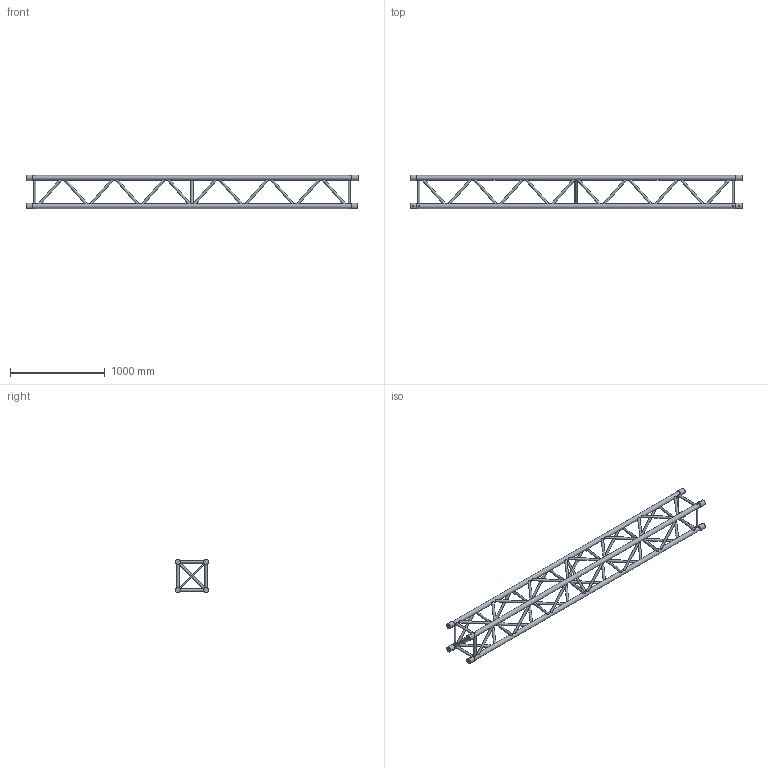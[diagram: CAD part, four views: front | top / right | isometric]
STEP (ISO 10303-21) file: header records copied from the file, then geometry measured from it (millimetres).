
FILE_DESCRIPTION(/* description */ (''),/* implementation_level */ '2;1');
FILE_NAME(/* name */ 'C:\Users\corina\Desktop\111110072.stp',/* time_stamp */ '2016-09-09T12:44:57+03:00',/* author */ ('corina.carstoveanu'),/* organization */ (''),/* preprocessor_version */ 'ST-DEVELOPER v15.6',/* originating_system */ 'Autodesk Inventor 2015',/* authorisation */ '');
FILE_SCHEMA (('AUTOMOTIVE_DESIGN { 1 0 10303 214 3 1 1 }'));
Length unit declared in the file: millimetre
Products named in the file (1): 260030881
Bounding box: 3500 x 357.8 x 357.8 mm (x, y, z)
Volume: 9099725.9 mm3; surface area: 3741706.7 mm2
Topology: 4 solids, 7 shells, 292 faces, 839 edges, 549 vertices
Faces by surface type: cylinder 144, plane 108, cone 40
Full cylindrical faces by diameter (mm): 10 x8, 25 x59, 50 x4, 58.8 x8
Entity records: 13505 total; most frequent: CARTESIAN_POINT 7239, ORIENTED_EDGE 1148, DIRECTION 1081, EDGE_CURVE 547, EDGE_LOOP 504, AXIS2_PLACEMENT_3D 472, VERTEX_POINT 402, STYLED_ITEM 260
